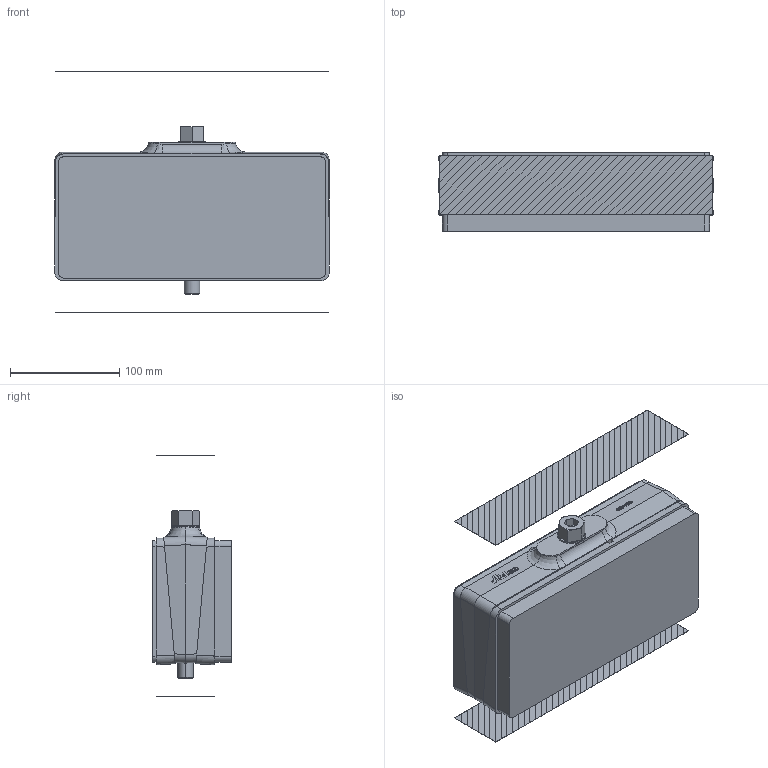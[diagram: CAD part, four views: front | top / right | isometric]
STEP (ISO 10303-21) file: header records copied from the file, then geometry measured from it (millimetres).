
FILE_DESCRIPTION (( 'STEP AP214' ), '1' );
FILE_NAME ('406-VRC-15-3.step', '2014-01-16T14:02:53', ( 'admin' ), ( '' ), 'SwSTEP 2.0', 'SolidWorks 2012', '' );
FILE_SCHEMA (( 'AUTOMOTIVE_DESIGN' ));
Length unit declared in the file: millimetre
Products named in the file (3): SS 002810_406-VRC; SS 000803_406-VRC-15-3; 406-VRC-15-3
Assembly tree (2 placements, depth 2):
  406-VRC-15-3
    SS 000803_406-VRC-15-3
    SS 002810_406-VRC
Bounding box: 252.03 x 72 x 221 mm (x, y, z)
Volume: 2086827.6 mm3; surface area: 175894.1 mm2
Topology: 4 solids, 12 shells, 562 faces, 1480 edges, 969 vertices
Faces by surface type: plane 403, cylinder 64, bspline 59, cone 34, torus 2
Entity records: 22192 total; most frequent: CARTESIAN_POINT 7043, ORIENTED_EDGE 2956, DIRECTION 2402, EDGE_CURVE 1478, LINE 1126, VECTOR 1126, VERTEX_POINT 969, AXIS2_PLACEMENT_3D 638
